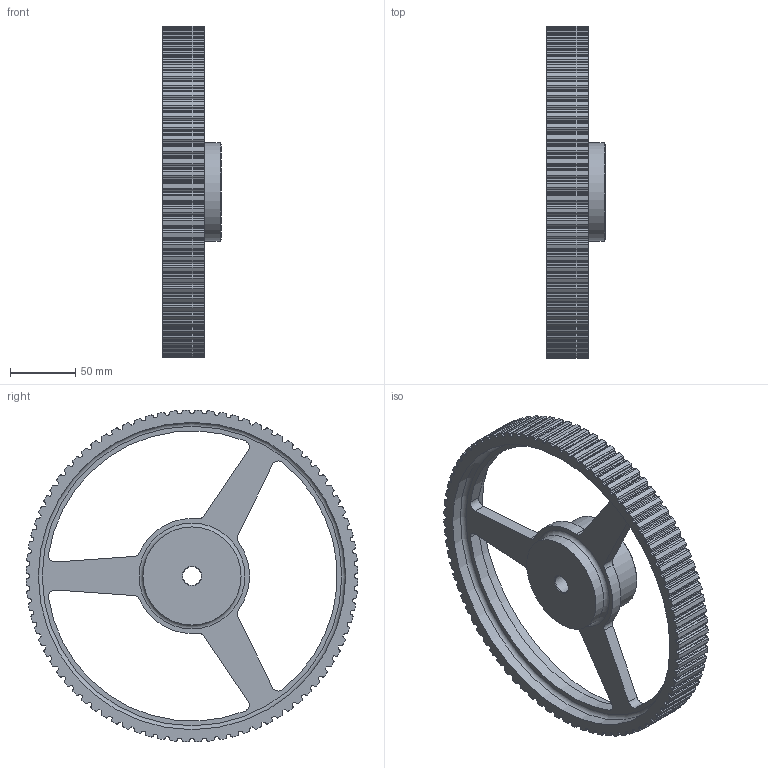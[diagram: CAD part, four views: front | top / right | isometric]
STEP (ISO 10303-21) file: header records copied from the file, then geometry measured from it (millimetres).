
FILE_DESCRIPTION(/* description */ ('PULEGGE 84 L 100'),/* implementation_level */ '2;1');
FILE_NAME(/* name */ 'w:\documenti\Disegni dwg\Catalogo\Pulegge\L\100\stp\42100084.stp',/* time_stamp */ '2023-05-22T11:08:16+02:00',/* author */ ('carlo.bersi'),/* organization */ (''),/* preprocessor_version */ 'ST-DEVELOPER v19',/* originating_system */ 'Autodesk Inventor 2023',/* authorisation */ '');
FILE_SCHEMA (('CONFIG_CONTROL_DESIGN'));
Length unit declared in the file: millimetre
Products named in the file (1): 42100084
Bounding box: 45 x 253.85 x 253.85 mm (x, y, z)
Volume: 505193 mm3; surface area: 113681.9 mm2
Topology: 1 solids, 1 shells, 714 faces, 2121 edges, 1413 vertices
Faces by surface type: cylinder 443, plane 264, torus 4, cone 3
Full cylindrical faces by diameter (mm): 14 x1, 75 x2, 235 x2
Entity records: 24361 total; most frequent: DIRECTION 4452, CARTESIAN_POINT 4249, ORIENTED_EDGE 4242, EDGE_CURVE 2121, AXIS2_PLACEMENT_3D 1616, VERTEX_POINT 1413, LINE 1220, VECTOR 1220
